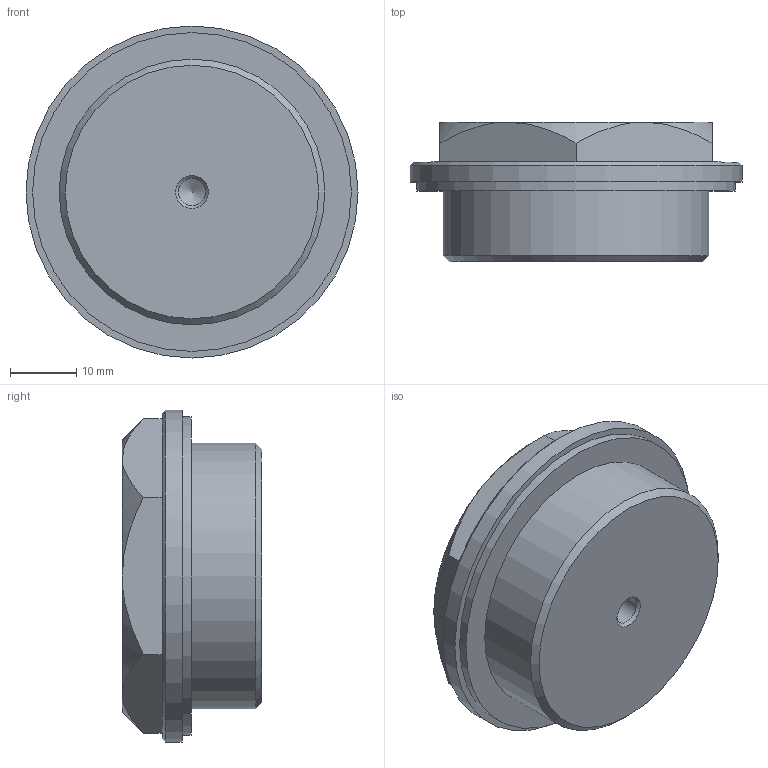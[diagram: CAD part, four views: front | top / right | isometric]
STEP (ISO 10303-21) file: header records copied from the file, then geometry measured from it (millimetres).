
FILE_DESCRIPTION( ( 'STEP AP203' ), '1' );
FILE_NAME( 'C:/Temp/Ganter_Step_05_03_2020/data/3_5/gn742/gn742_1/Threaded plug GN 742-50-M40x1,5-OSS-1.stp', '2020-03-12T13:39:18', ( 'License CC BY-ND 4.0' ), ( 'CADENAS' ), ' ', 'PARTsolutions', ' ' );
FILE_SCHEMA( ( 'CONFIG_CONTROL_DESIGN' ) );
Length unit declared in the file: millimetre
Products named in the file (1): _Threaded plug GN 742-50-M40x1,5-OSS-1
Bounding box: 50 x 21 x 50 mm (x, y, z)
Volume: 30028.5 mm3; surface area: 6785.6 mm2
Topology: 1 solids, 1 shells, 25 faces, 50 edges, 30 vertices
Faces by surface type: plane 11, cone 10, cylinder 4
Full cylindrical faces by diameter (mm): 4.134 x1, 40 x1, 48 x1, 50 x1
Entity records: 708 total; most frequent: CARTESIAN_POINT 189, DIRECTION 98, ORIENTED_EDGE 82, AXIS2_PLACEMENT_3D 43, EDGE_CURVE 41, EDGE_LOOP 36, VERTEX_POINT 30, FACE_OUTER_BOUND 29
